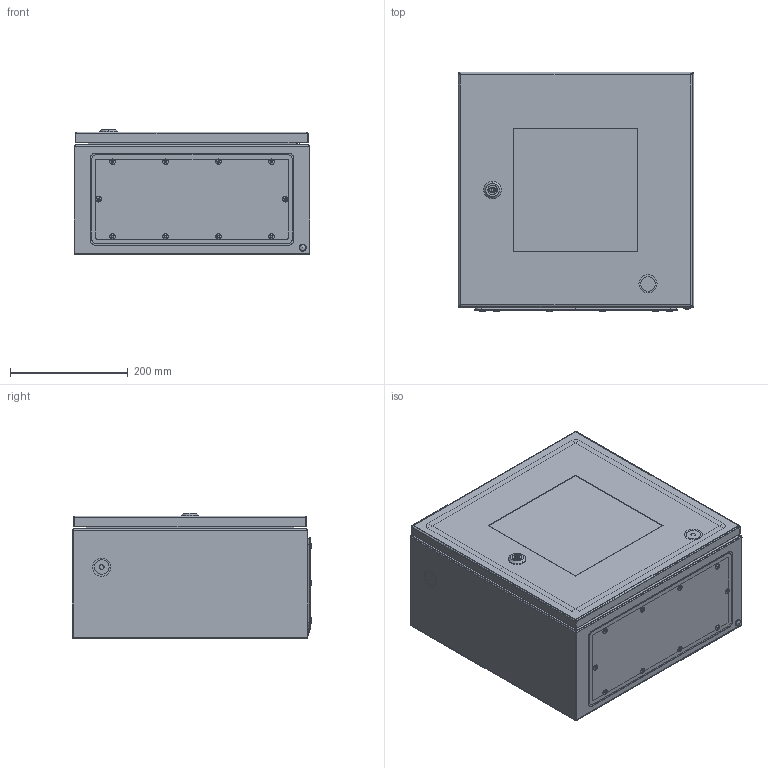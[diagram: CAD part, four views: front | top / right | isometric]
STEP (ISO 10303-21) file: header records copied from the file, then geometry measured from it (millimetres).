
FILE_DESCRIPTION (( 'STEP AP214' ), '1' );
FILE_NAME ('CCV 40.40.21.STEP', '2025-09-18T13:33:33', ( '' ), ( '' ), 'SwSTEP 2.0', 'SolidWorks 2019', '' );
FILE_SCHEMA (( 'AUTOMOTIVE_DESIGN' ));
Length unit declared in the file: millimetre
Products named in the file (27): Ïåòëÿ KIT_Ìîäóëü_êîðïóñíàÿ ÷àñòü â ñáîðå; Âèíò ðåçüáîâûäàâëèâàþùèé ñ ïîëóïîòàéíîé ãîëîâêîé Ì5õ12; PKV Y.15 相礤朦 赅徨朦眍泐 忖钿郷PKV 40(15); CCV X.Y.02.001 拟屦黖CCV 40.40; Essentra_d6,3_1287228; pan head cross recess screw_din_DIN EN ISO 7045 - M5 x 6 - Z - 6N; ßçû÷îê çàìêà LC 5DB.S; MPC X.Y Ïàíåëü ìîíòàæíàÿ_MPC 40.40; Çàìîê LC 5DB.S_‡ ¬®ª LC 5DB.S_45mm; Øïèëüêà Ì8õ25; hex flange nut_din_Hexagon Flange Nut DIN 6923 - M8 - N; CCV 40.40.21; Øïèëüêà çàçåìëåíèÿ Ì6õ17,5_˜¯¨«ìª  § §¥¬«¥­¨ï Œ6å17,5; plain washer grade a_din_Washer DIN 125 - A 5.3; Ïåòëÿ ïðèâàðíàÿ ÷àñòü; ﾇ瑟鶴 LC 5DB.S; CCS X.Y.Z.01.000捘 扻豵鵨_CCS 40.40.21; KIT_Øòèôò_ô5_Ìîäóëü; Ãàéêà Ì8 DIN 934; CCV X.Y.02.002 栺樏鋋_CCV 40.40; CCS X.Y.Z.01.001 扻豵鵨_CCS 40.40.21; Ïåòëÿ KIT_Ìîäóëü_êîðïóñíàÿ ÷àñòü; Øïèëüêà çàçåìëåíèÿ Ì6õ17,5_˜¯¨«ìª  § §¥¬«¥­¨ï Œ6å17,5 á ª®«¯ çª®¬; CCV X.Y.02.000蚜 拟屦黖CCV 40.40; Essentra_d9.3_055009300003; KIT_Çàæèìíîå êîëüöî_ïîëèîêñèìåòèëåí_ô5_EMKA 1031-U16
Assembly tree (52 placements, depth 3):
  CCV 40.40.21
    CCS X.Y.Z.01.000捘 扻豵鵨_CCS 40.40.21
      CCS X.Y.Z.01.001 扻豵鵨_CCS 40.40.21
      Øïèëüêà çàçåìëåíèÿ Ì6õ17,5_˜¯¨«ìª  § §¥¬«¥­¨ï Œ6å17,5  x2
      Øïèëüêà Ì8õ25  x4
    Ïåòëÿ KIT_Ìîäóëü_êîðïóñíàÿ ÷àñòü â ñáîðå
      Ïåòëÿ KIT_Ìîäóëü_êîðïóñíàÿ ÷àñòü
      KIT_Øòèôò_ô5_Ìîäóëü
      KIT_Çàæèìíîå êîëüöî_ïîëèîêñèìåòèëåí_ô5_EMKA 1031-U16
    Ïåòëÿ KIT_Ìîäóëü_êîðïóñíàÿ ÷àñòü â ñáîðå
      Ïåòëÿ KIT_Ìîäóëü_êîðïóñíàÿ ÷àñòü
      KIT_Øòèôò_ô5_Ìîäóëü
      KIT_Çàæèìíîå êîëüöî_ïîëèîêñèìåòèëåí_ô5_EMKA 1031-U16
    CCV X.Y.02.000蚜 拟屦黖CCV 40.40
      CCV X.Y.02.001 拟屦黖CCV 40.40
      Øïèëüêà çàçåìëåíèÿ Ì6õ17,5_˜¯¨«ìª  § §¥¬«¥­¨ï Œ6å17,5 á ª®«¯ çª®¬
      CCV X.Y.02.002 栺樏鋋_CCV 40.40
      Ïåòëÿ ïðèâàðíàÿ ÷àñòü  x2
    MPC X.Y Ïàíåëü ìîíòàæíàÿ_MPC 40.40
    PKV Y.15 相礤朦 赅徨朦眍泐 忖钿郷PKV 40(15)
    pan head cross recess screw_din_DIN EN ISO 7045 - M5 x 6 - Z - 6N  x2
    plain washer grade a_din_Washer DIN 125 - A 5.3  x2
    Ãàéêà Ì8 DIN 934  x4
    hex flange nut_din_Hexagon Flange Nut DIN 6923 - M8 - N  x4
    Âèíò ðåçüáîâûäàâëèâàþùèé ñ ïîëóïîòàéíîé ãîëîâêîé Ì5õ12  x10
    Essentra_d9.3_055009300003
    Essentra_d6,3_1287228  x2
    Çàìîê LC 5DB.S_‡ ¬®ª LC 5DB.S_45mm
      ﾇ瑟鶴 LC 5DB.S
      ßçû÷îê çàìêà LC 5DB.S
Bounding box: 400 x 406.62 x 213.45 mm (x, y, z)
Volume: 1404005.6 mm3; surface area: 1820766.8 mm2
Topology: 50 solids, 50 shells, 2042 faces, 5029 edges, 3102 vertices
Faces by surface type: plane 771, cylinder 741, cone 250, bspline 132, torus 111, sphere 37
Entity records: 48215 total; most frequent: CARTESIAN_POINT 19784, ORIENTED_EDGE 5622, DIRECTION 5508, EDGE_CURVE 2811, AXIS2_PLACEMENT_3D 2064, VERTEX_POINT 1747, LINE 1380, VECTOR 1380
